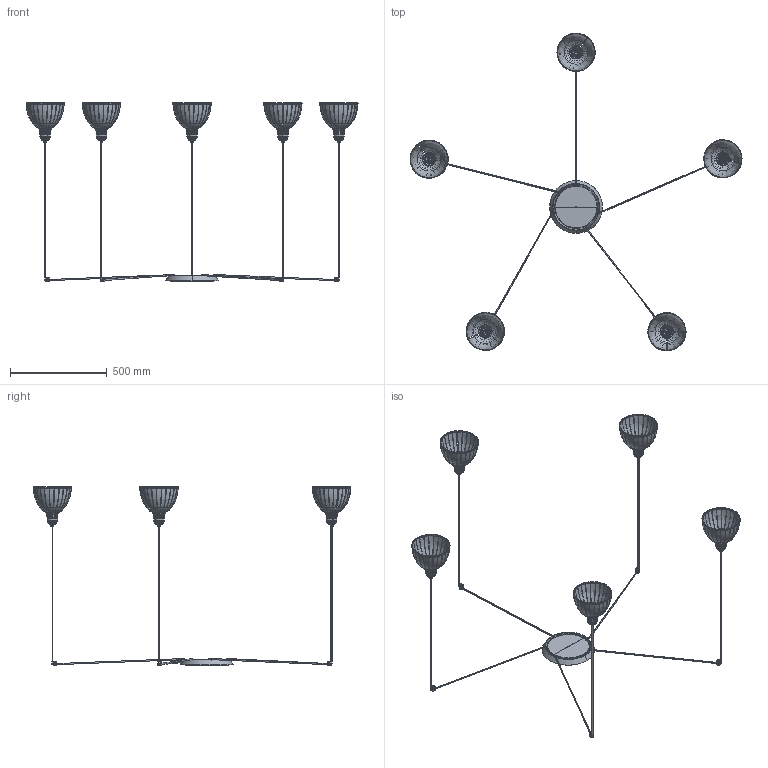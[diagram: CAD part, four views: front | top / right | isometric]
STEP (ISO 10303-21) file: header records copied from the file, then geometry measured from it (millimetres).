
FILE_DESCRIPTION(/* description */ (''),/* implementation_level */ '2;1');
FILE_NAME(/* name */ '64255-127-5L.step',/* time_stamp */ '2024-05-09T15:22:41+02:00',/* author */ ('RenataManzini'),/* organization */ (''),/* preprocessor_version */ 'ST-DEVELOPER v20',/* originating_system */ 'AutoCAD Mechanical',/* authorisation */ '');
FILE_SCHEMA (('AUTOMOTIVE_DESIGN { 1 0 10303 214 3 1 1 }'));
Products named in the file (2): Product; RETRO_CAN5 - 68603-515456-_3D_
Assembly tree (1 placements, depth 2):
  Product
    RETRO_CAN5 - 68603-515456-_3D_
Bounding box: 1719.8 x 1645.34 x 923.11 mm (x, y, z)
Volume: 1678831.1 mm3; surface area: 2410671.8 mm2
Topology: 282 solids, 282 shells, 6027 faces, 16018 edges, 10531 vertices
Faces by surface type: bspline 1520, torus 1478, cone 1294, plane 1223, cylinder 512
Entity records: 232984 total; most frequent: CARTESIAN_POINT 86518, ORIENTED_EDGE 32010, DIRECTION 30767, EDGE_CURVE 16005, AXIS2_PLACEMENT_3D 13174, VERTEX_POINT 10526, CIRCLE 8664, EDGE_LOOP 6101
